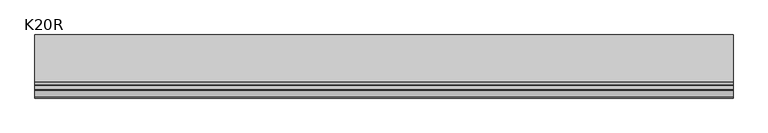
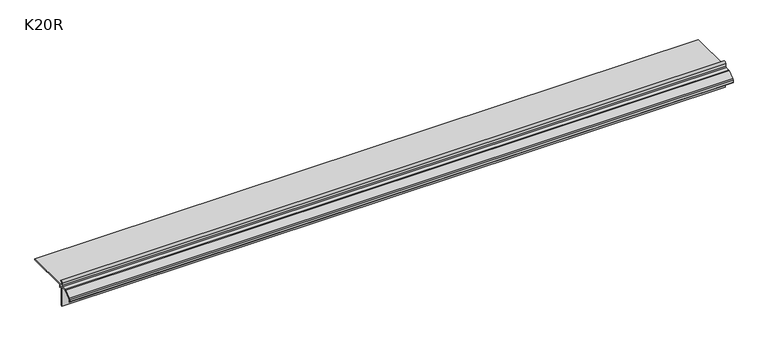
"""IFC4 building model written with IfcOpenShell, lengths in millimetres: proxy geometry, K20R Profil okapowy prosty z rynną : K20R."""

from ifc_helpers import new_model, si_unit, frame, origin, place, context, project, spatial, polyline, circle_curve, source, transform, mapped, element, save
from ifc_brep_helpers import plane_surface, cylinder_surface, revolved_surface, advanced_brep


def k20r_6649cff2(model_context):
    return source(origin(), model_context, "Body", "AdvancedBrep", [
        advanced_brep(
        [(0.0, -4.0000007, -8.2869169), (0.0, -4.0000007, -4.0987801), (0.0, 0.0, 0.0), (0.0, 0.0, -1.6007811), (0.0, -2.3999996, -4.1001397), (0.0, -2.3999996, -9.6198913), (0.0, 87.2999988, -9.6198913), (0.0, 87.2999988, -11.9198912), (0.0, 4.7999993, -11.9198912), (0.0, 4.7999993, -16.6198916), (0.0, 3.6000013, -16.6198916), (0.0, 3.6000013, -11.9198912), (0.0, -1.3999986, -11.9198912), (0.0, -1.3999986, -50.494891), (0.0, -2.8999983, -51.9948908), (0.0, -2.8999983, -11.9198912), (0.0, -3.9703269, -11.9198912), (0.0, -13.5823481, -12.255551), (0.0, -14.4327213, -12.5566837), (0.0, -26.3036302, -21.502055), (0.0, -27.1, -23.0993261), (0.0, -27.1, -27.0198916), (0.0, -28.8, -27.0198916), (0.0, -28.8, -22.750319), (0.0, -27.6054451, -20.3544125), (0.0, -15.4054451, -11.1610531), (0.0, -13.7033457, -10.5587402), (0.0, -5.930201, -10.2872957), (1283.4709887, -4.0000007, -8.2869169), (1283.4709887, -5.930201, -10.2872957), (1283.4709887, -13.7033457, -10.5587402), (1283.4709887, -15.4054451, -11.1610531), (1283.4709887, -27.605445, -20.3544126), (1283.4709887, -28.8, -22.750319), (1283.4709887, -28.8, -27.0198916), (1283.4709887, -27.1, -27.0198916), (1283.4709887, -27.1, -23.0993261), (1283.4709887, -26.3036301, -21.5020551), (1283.4709887, -14.4327214, -12.5566836), (1283.4709887, -13.5823481, -12.2555508), (1283.4709887, -3.9703269, -11.9198912), (1283.4709887, -2.8999983, -11.9198912), (1283.4709887, -2.8999983, -51.9948908), (1283.4709887, -1.3999986, -50.494891), (1283.4709887, -1.3999986, -11.9198912), (1283.4709887, 3.6000013, -11.9198912), (1283.4709887, 3.6000013, -16.6198916), (1283.4709887, 4.7999993, -16.6198916), (1283.4709887, 4.7999993, -11.9198912), (1283.4709887, 87.2999988, -11.9198912), (1283.4709887, 87.2999988, -9.6198913), (1283.4709887, -2.3999996, -9.6198913), (1283.4709887, -2.3999996, -4.1001397), (1283.4709887, 0.0, -1.6007811), (1283.4709887, 0.0, 0.0), (1283.4709887, -4.0, -4.0987803)],
        [
            (0, 1),
            (1, 2, circle_curve(frame((0.0, 0.1, -4.0987803), z_axis=(-1.0, 0.0, 0.0), x_axis=(0.0, 1.0, 0.0)), 4.1)),
            (2, 3),
            (3, 4, circle_curve(frame((0.0, 0.1, -4.0987803), z_axis=(1.0, 0.0, 0.0), x_axis=(0.0, 1.0, 0.0)), 2.5)),
            (4, 5),
            (5, 6),
            (6, 7),
            (7, 8),
            (8, 9),
            (9, 10),
            (10, 11),
            (11, 12),
            (12, 13),
            (13, 14),
            (14, 15),
            (15, 16),
            (16, 17),
            (17, 18, circle_curve(frame((0.0, -13.5299988, -13.754637), z_axis=(1.0, 0.0, 0.0), x_axis=(0.0, 1.0, 0.0)), 1.5)),
            (18, 19),
            (19, 20, circle_curve(frame((0.0, -25.1, -23.0993261), z_axis=(1.0, 0.0, 0.0), x_axis=(0.0, 1.0, 0.0)), 2.0)),
            (20, 21),
            (21, 22, circle_curve(frame((0.0, -27.95, -27.0198916), z_axis=(-1.0, 0.0, 0.0), x_axis=(0.0, 1.0, 0.0)), 0.85)),
            (22, 23),
            (23, 24, circle_curve(frame((0.0, -25.8, -22.750319), z_axis=(-1.0, 0.0, 0.0), x_axis=(0.0, 1.0, 0.0)), 3.0)),
            (24, 25),
            (25, 26, circle_curve(frame((0.0, -13.6, -13.5569596), z_axis=(-1.0, 0.0, 0.0), x_axis=(0.0, 1.0, 0.0)), 3.0)),
            (26, 27),
            (27, 0, circle_curve(frame((0.0, -6.0, -8.288514), z_axis=(1.0, 0.0, 0.0), x_axis=(0.0, 1.0, 0.0)), 2.0)),
            (28, 29, circle_curve(frame((1283.4709887, -6.0, -8.288514), z_axis=(-1.0, 0.0, 0.0), x_axis=(0.0, 1.0, 0.0)), 2.0)),
            (29, 30),
            (30, 31, circle_curve(frame((1283.4709887, -13.6, -13.5569596), z_axis=(1.0, 0.0, 0.0), x_axis=(0.0, 1.0, 0.0)), 3.0)),
            (31, 32),
            (32, 33, circle_curve(frame((1283.4709887, -25.8, -22.750319), z_axis=(1.0, 0.0, 0.0), x_axis=(0.0, 1.0, 0.0)), 3.0)),
            (33, 34),
            (34, 35, circle_curve(frame((1283.4709887, -27.95, -27.0198916), z_axis=(1.0, 0.0, 0.0), x_axis=(0.0, 1.0, 0.0)), 0.85)),
            (35, 36),
            (36, 37, circle_curve(frame((1283.4709887, -25.1, -23.0993261), z_axis=(-1.0, 0.0, 0.0), x_axis=(0.0, 1.0, 0.0)), 2.0)),
            (37, 38),
            (38, 39, circle_curve(frame((1283.4709887, -13.5299988, -13.754637), z_axis=(-1.0, 0.0, 0.0), x_axis=(0.0, 1.0, 0.0)), 1.5)),
            (39, 40),
            (40, 41),
            (41, 42),
            (42, 43),
            (43, 44),
            (44, 45),
            (45, 46),
            (46, 47),
            (47, 48),
            (48, 49),
            (49, 50),
            (50, 51),
            (51, 52),
            (52, 53, circle_curve(frame((1283.4709887, 0.1, -4.0987803), z_axis=(-1.0, 0.0, 0.0), x_axis=(0.0, 1.0, 0.0)), 2.5)),
            (53, 54),
            (54, 55, circle_curve(frame((1283.4709887, 0.1, -4.0987803), z_axis=(1.0, 0.0, 0.0), x_axis=(0.0, 1.0, 0.0)), 4.1)),
            (55, 28),
            (0, 28),
            (55, 1),
            (54, 2),
            (53, 3),
            (52, 4),
            (51, 5),
            (50, 6),
            (49, 7),
            (48, 8),
            (47, 9),
            (46, 10),
            (45, 11),
            (44, 12),
            (43, 13),
            (42, 14),
            (41, 15),
            (40, 16),
            (39, 17),
            (38, 18),
            (37, 19),
            (36, 20),
            (35, 21),
            (34, 22),
            (33, 23),
            (32, 24),
            (31, 25),
            (30, 26),
            (29, 27),
        ],
        [
            plane_surface(frame((0.0, 0.0, 0.0), z_axis=(-1.0, 0.0, 0.0), x_axis=(0.0, 0.0, 1.0))),
            plane_surface(frame((1283.4709887, 0.0, 0.0), z_axis=(1.0, 0.0, 0.0), x_axis=(0.0, 0.0, 1.0))),
            plane_surface(frame((0.0, -4.0000007, -8.2869169), z_axis=(0.0, -1.0, 0.0), x_axis=(1.0, 0.0, 0.0))),
            cylinder_surface(frame((0.0, 0.1, -4.0987803), z_axis=(-1.0, 0.0, 0.0), x_axis=(0.0, 1.0, 0.0)), 4.1),
            plane_surface(frame((0.0, 0.0, 0.0), z_axis=(0.0, 1.0, 0.0), x_axis=(1.0, 0.0, 0.0))),
            revolved_surface(polyline([(1283.4709887, 2.6, -4.0987803), (0.0, 2.6, -4.0987803)]), (0.0, 0.1, -4.0987803), (1.0, 0.0, 0.0)),
            plane_surface(frame((0.0, -2.3999996, -4.1001397), z_axis=(0.0, 1.0, 0.0), x_axis=(1.0, 0.0, 0.0))),
            plane_surface(frame((0.0, -2.3999996, -9.6198913), z_axis=(0.0, 0.0, 1.0), x_axis=(1.0, 0.0, 0.0))),
            plane_surface(frame((0.0, 87.2999988, -9.6198913), z_axis=(0.0, 1.0, 0.0), x_axis=(1.0, 0.0, 0.0))),
            plane_surface(frame((0.0, 87.2999988, -11.9198912), z_axis=(0.0, 0.0, -1.0), x_axis=(1.0, 0.0, 0.0))),
            plane_surface(frame((0.0, 4.7999993, -11.9198912), z_axis=(0.0, 1.0, 0.0), x_axis=(1.0, 0.0, 0.0))),
            plane_surface(frame((0.0, 4.7999993, -16.6198916), z_axis=(0.0, 0.0, -1.0), x_axis=(1.0, 0.0, 0.0))),
            plane_surface(frame((0.0, 3.6000013, -16.6198916), z_axis=(0.0, -1.0, 0.0), x_axis=(1.0, 0.0, 0.0))),
            plane_surface(frame((0.0, 3.6000013, -11.9198912), z_axis=(0.0, 0.0, -1.0), x_axis=(1.0, 0.0, 0.0))),
            plane_surface(frame((0.0, -1.3999986, -11.9198912), z_axis=(0.0, 1.0, 0.0), x_axis=(1.0, 0.0, 0.0))),
            plane_surface(frame((0.0, -1.3999986, -50.494891), z_axis=(0.0, 0.7071067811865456, -0.7071067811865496), x_axis=(1.0, 0.0, 0.0))),
            plane_surface(frame((0.0, -2.8999983, -51.9948908), z_axis=(0.0, -1.0, 0.0), x_axis=(1.0, 0.0, 0.0))),
            plane_surface(frame((0.0, -2.8999983, -11.9198912), z_axis=(0.0, 0.0, -1.0), x_axis=(1.0, 0.0, 0.0))),
            plane_surface(frame((0.0, -3.9703269, -11.9198912), z_axis=(0.0, 0.034899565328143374, -0.9993908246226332), x_axis=(1.0, 0.0, 0.0))),
            revolved_surface(polyline([(1283.4709887, -12.0299988, -13.754637), (0.0, -12.0299988, -13.754637)]), (0.0, -13.5299988, -13.754637), (1.0, 0.0, 0.0)),
            plane_surface(frame((0.0, -14.4327214, -12.5566836), z_axis=(0.0, 0.6018150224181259, -0.7986355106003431), x_axis=(1.0, 0.0, 0.0))),
            revolved_surface(polyline([(1283.4709887, -23.1, -23.0993261), (0.0, -23.1, -23.0993261)]), (0.0, -25.1, -23.0993261), (1.0, 0.0, 0.0)),
            plane_surface(frame((0.0, -27.1, -23.0993261), z_axis=(0.0, 1.0, 0.0), x_axis=(1.0, 0.0, 0.0))),
            cylinder_surface(frame((0.0, -27.95, -27.0198916), z_axis=(-1.0, 0.0, 0.0), x_axis=(0.0, 1.0, 0.0)), 0.85),
            plane_surface(frame((0.0, -28.8, -27.0198916), z_axis=(0.0, -1.0, 0.0), x_axis=(1.0, 0.0, 0.0))),
            cylinder_surface(frame((0.0, -25.8, -22.750319), z_axis=(-1.0, 0.0, 0.0), x_axis=(0.0, 1.0, 0.0)), 3.0),
            plane_surface(frame((0.0, -27.605445, -20.3544126), z_axis=(0.0, -0.6018150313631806, 0.7986355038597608), x_axis=(1.0, 0.0, 0.0))),
            cylinder_surface(frame((0.0, -13.6, -13.5569596), z_axis=(-1.0, 0.0, 0.0), x_axis=(0.0, 1.0, 0.0)), 3.0),
            plane_surface(frame((0.0, -13.7033457, -10.5587402), z_axis=(0.0, -0.03489952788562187, 0.9993908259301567), x_axis=(1.0, 0.0, 0.0))),
            revolved_surface(polyline([(1283.4709887, -4.0, -8.288514), (0.0, -4.0, -8.288514)]), (0.0, -6.0, -8.288514), (1.0, 0.0, 0.0)),
        ],
        [
            (0, [[1, 2, 3, 4, 5, 6, 7, 8, 9, 10, 11, 12, 13, 14, 15, 16, 17, 18, 19, 20, 21, 22, 23, 24, 25, 26, 27, 28]]),
            (1, [[29, 30, 31, 32, 33, 34, 35, 36, 37, 38, 39, 40, 41, 42, 43, 44, 45, 46, 47, 48, 49, 50, 51, 52, 53, 54, 55, 56]]),
            (2, [[-1, 57, -56, 58]]),
            (3, [[-2, -58, -55, 59]]),
            (4, [[-3, -59, -54, 60]]),
            (5, [[-4, -60, -53, 61]]),
            (6, [[-5, -61, -52, 62]]),
            (7, [[-6, -62, -51, 63]]),
            (8, [[-7, -63, -50, 64]]),
            (9, [[-8, -64, -49, 65]]),
            (10, [[-9, -65, -48, 66]]),
            (11, [[-10, -66, -47, 67]]),
            (12, [[-11, -67, -46, 68]]),
            (13, [[-12, -68, -45, 69]]),
            (14, [[-13, -69, -44, 70]]),
            (15, [[-14, -70, -43, 71]]),
            (16, [[-15, -71, -42, 72]]),
            (17, [[-16, -72, -41, 73]]),
            (18, [[-17, -73, -40, 74]]),
            (19, [[-18, -74, -39, 75]]),
            (20, [[-19, -75, -38, 76]]),
            (21, [[-20, -76, -37, 77]]),
            (22, [[-21, -77, -36, 78]]),
            (23, [[-22, -78, -35, 79]]),
            (24, [[-23, -79, -34, 80]]),
            (25, [[-24, -80, -33, 81]]),
            (26, [[-25, -81, -32, 82]]),
            (27, [[-26, -82, -31, 83]]),
            (28, [[-27, -83, -30, 84]]),
            (29, [[-28, -84, -29, -57]]),
        ],
    ),
    ])


if __name__ == "__main__":
    model = new_model("IFC4")
    model_context = context("Model", 3, world=origin())
    ifc_project = project(units=[si_unit("LENGTHUNIT", "METRE", prefix="MILLI")], contexts=[model_context])
    site = spatial("IfcSite", under=ifc_project)
    building = spatial("IfcBuilding", under=site)
    placement = place(None, origin())
    k20r_shape = k20r_6649cff2(model_context)
    element("IfcBuildingElementProxy", 1, Name="K20R Profil okapowy prosty z rynną : K20R", ObjectType="K20R Profil okapowy prosty z rynną : K20R", at=placement, inside=building, context=model_context, shape_type="MappedRepresentation", body=[
        mapped(k20r_shape, transform((0.0, 0.0, 0.0), x_axis=(1.0, 0.0, 0.0), y_axis=(0.0, 1.0, 0.0), z_axis=(0.0, 0.0, 1.0))),
    ])
    save(model, "model.ifc")
